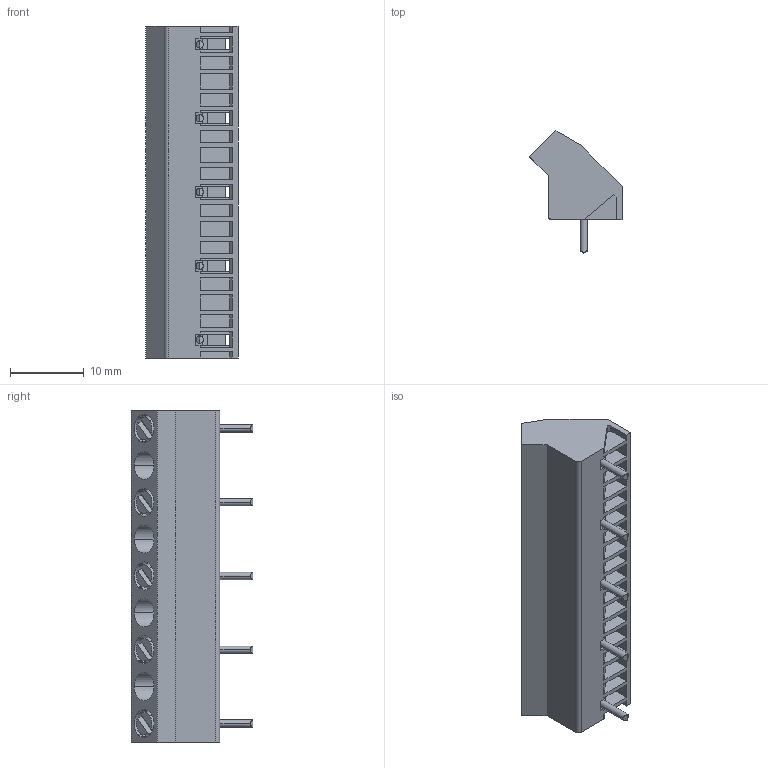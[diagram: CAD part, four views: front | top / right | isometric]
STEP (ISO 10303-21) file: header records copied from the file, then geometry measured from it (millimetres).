
FILE_DESCRIPTION (( 'STEP AP203' ), '1' );
FILE_NAME ('975-05.STEP', '2019-01-26T16:24:47', ( '' ), ( '' ), 'SwSTEP 2.0', 'SolidWorks 2016', '' );
FILE_SCHEMA (( 'CONFIG_CONTROL_DESIGN' ));
Length unit declared in the file: millimetre
Products named in the file (1): 975-05
Bounding box: 12.5 x 16.5 x 45 mm (x, y, z)
Volume: 2803.9 mm3; surface area: 3777.2 mm2
Topology: 1 solids, 1 shells, 562 faces, 1642 edges, 1069 vertices
Faces by surface type: plane 377, cylinder 95, cone 50, torus 30, bspline 10
Entity records: 19352 total; most frequent: CARTESIAN_POINT 4627, ORIENTED_EDGE 3284, DIRECTION 2800, EDGE_CURVE 1642, VERTEX_POINT 1069, LINE 1038, VECTOR 1038, AXIS2_PLACEMENT_3D 881
